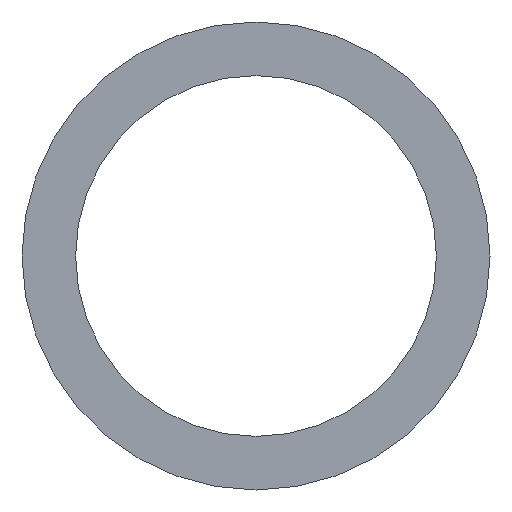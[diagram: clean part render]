
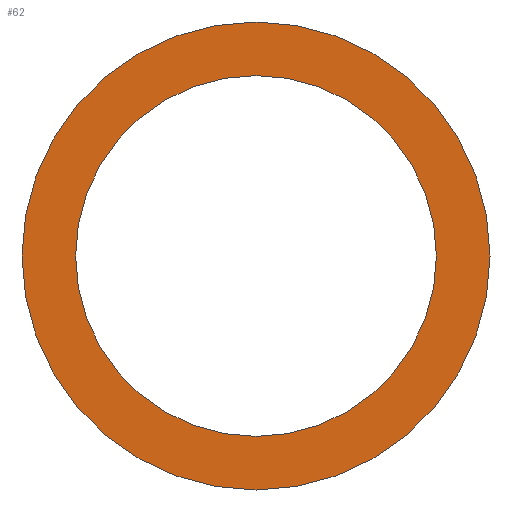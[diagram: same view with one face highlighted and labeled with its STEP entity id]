
A CAD part, front view. The second image highlights one B-rep face of the part: STEP entity #62.
In plain terms, the highlighted planar face has unit normal (0, -1, 0).
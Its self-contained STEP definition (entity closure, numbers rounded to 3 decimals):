
#20=PLANE('',#83);
#26=ORIENTED_EDGE('',*,*,#30,.T.);
#27=ORIENTED_EDGE('',*,*,#32,.F.);
#30=EDGE_CURVE('',#34,#34,#38,.T.);
#32=EDGE_CURVE('',#36,#36,#40,.T.);
#34=VERTEX_POINT('',#106);
#36=VERTEX_POINT('',#111);
#38=CIRCLE('',#78,353.5);
#40=CIRCLE('',#81,458.5);
#46=EDGE_LOOP('',(#26));
#47=EDGE_LOOP('',(#27));
#54=FACE_BOUND('',#46,.T.);
#55=FACE_BOUND('',#47,.T.);
#62=ADVANCED_FACE('',(#54,#55),#20,.F.);
#78=AXIS2_PLACEMENT_3D('',#105,#89,#90);
#81=AXIS2_PLACEMENT_3D('',#110,#95,#96);
#83=AXIS2_PLACEMENT_3D('',#114,#99,#100);
#89=DIRECTION('',(0.,1.,0.));
#90=DIRECTION('',(1.,0.,0.));
#95=DIRECTION('',(0.,1.,0.));
#96=DIRECTION('',(1.,0.,0.));
#99=DIRECTION('',(0.,1.,0.));
#100=DIRECTION('',(0.,0.,1.));
#105=CARTESIAN_POINT('',(0.,-1.5,0.));
#106=CARTESIAN_POINT('',(353.5,-1.5,0.));
#110=CARTESIAN_POINT('',(0.,-1.5,0.));
#111=CARTESIAN_POINT('',(458.5,-1.5,0.));
#114=CARTESIAN_POINT('',(0.,-1.5,0.));
